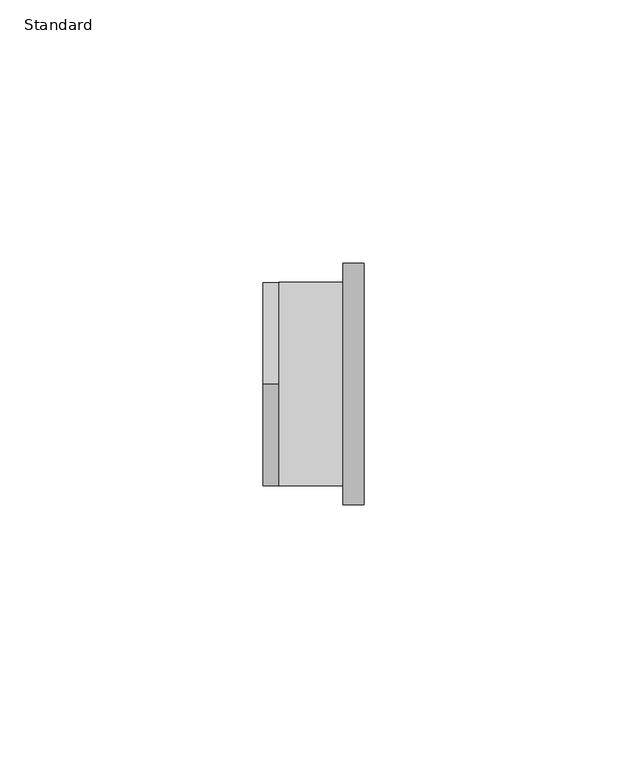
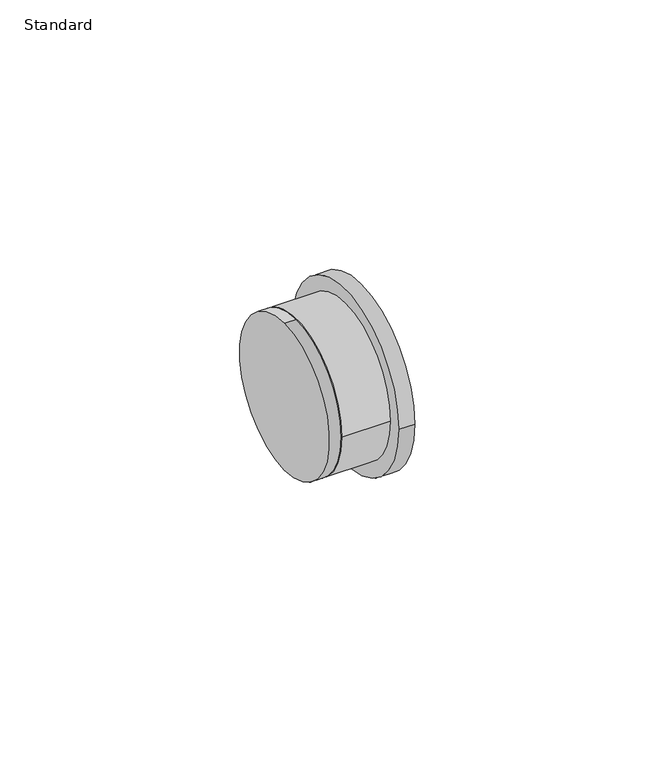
"""IFC4 building model written with IfcOpenShell, lengths in millimetres: pipe fitting geometry, Reducion Bushing_Lubrizol_CPVC_FlowGuard_MX : Standard."""

from ifc_helpers import new_model, si_unit, point, frame, origin, origin_2d, place, context, project, spatial, circle_curve, trimmed, segment, composite_curve, outline, extrude, source, transform, mapped, element, save


def standard_4791971d(model_context):
    return source(origin(), model_context, "Body", "SweptSolid", [
        extrude(outline(composite_curve([segment(trimmed(circle_curve(origin_2d(), 19.35), [point((-19.35, 0.0))], [point((19.35, 0.0))], False, "CARTESIAN"), True, "CONTINUOUS"), segment(trimmed(circle_curve(origin_2d(), 19.35), [point((19.35, 0.0))], [point((-19.35, 0.0))], False, "CARTESIAN"), True, "CONTINUOUS")], self_intersect=False)), frame((3.125, 0.0, 0.0), z_axis=(1.0, 0.0, 0.0), x_axis=(0.0, 1.0, 0.0)), (0.0, 0.0, 1.0), 12.1),
        extrude(outline(composite_curve([segment(trimmed(circle_curve(origin_2d(), 22.99), [point((-22.99, 0.0))], [point((22.99, 0.0))], False, "CARTESIAN"), True, "CONTINUOUS"), segment(trimmed(circle_curve(origin_2d(), 22.99), [point((22.99, 0.0))], [point((-22.99, 0.0))], False, "CARTESIAN"), True, "CONTINUOUS")], self_intersect=False)), frame((15.225, 0.0, 0.0), z_axis=(1.0, 0.0, 0.0), x_axis=(0.0, 1.0, 0.0)), (0.0, 0.0, 1.0), 4.0),
        extrude(outline(composite_curve([segment(trimmed(circle_curve(origin_2d(), 19.35), [point((0.0, 19.35))], [point((0.0, -19.35))], False, "CARTESIAN"), True, "CONTINUOUS"), segment(trimmed(circle_curve(origin_2d(), 19.35), [point((0.0, -19.35))], [point((0.0, 19.35))], False, "CARTESIAN"), True, "CONTINUOUS")], self_intersect=False)), frame((0.0, 0.0, 0.0), z_axis=(1.0, 0.0, 0.0), x_axis=(0.0, 1.0, 0.0)), (0.0, 0.0, 1.0), 3.125),
    ])


if __name__ == "__main__":
    model = new_model("IFC4")
    model_context = context("Model", 3, world=origin())
    ifc_project = project(units=[si_unit("LENGTHUNIT", "METRE", prefix="MILLI")], contexts=[model_context])
    site = spatial("IfcSite", under=ifc_project)
    building = spatial("IfcBuilding", under=site)
    placement = place(None, origin())
    standard_shape = standard_4791971d(model_context)
    element("IfcPipeFitting", 1, ObjectType="Reducion Bushing_Lubrizol_CPVC_FlowGuard_MX : Standard", at=placement, inside=building, context=model_context, shape_type="MappedRepresentation", body=[
        mapped(standard_shape, transform((0.0, 0.0, 0.0), x_axis=(1.0, 0.0, 0.0), y_axis=(0.0, 1.0, 0.0), z_axis=(0.0, 0.0, 1.0))),
    ])
    save(model, "model.ifc")
